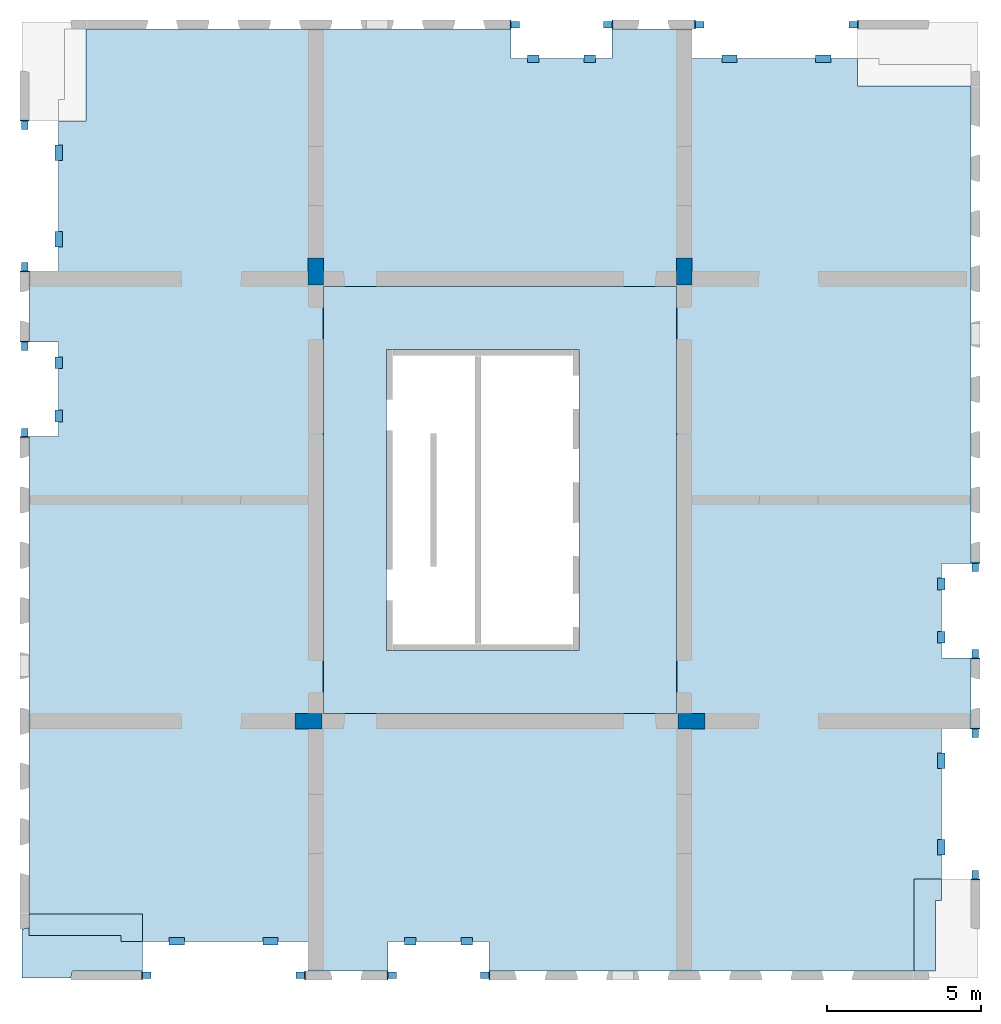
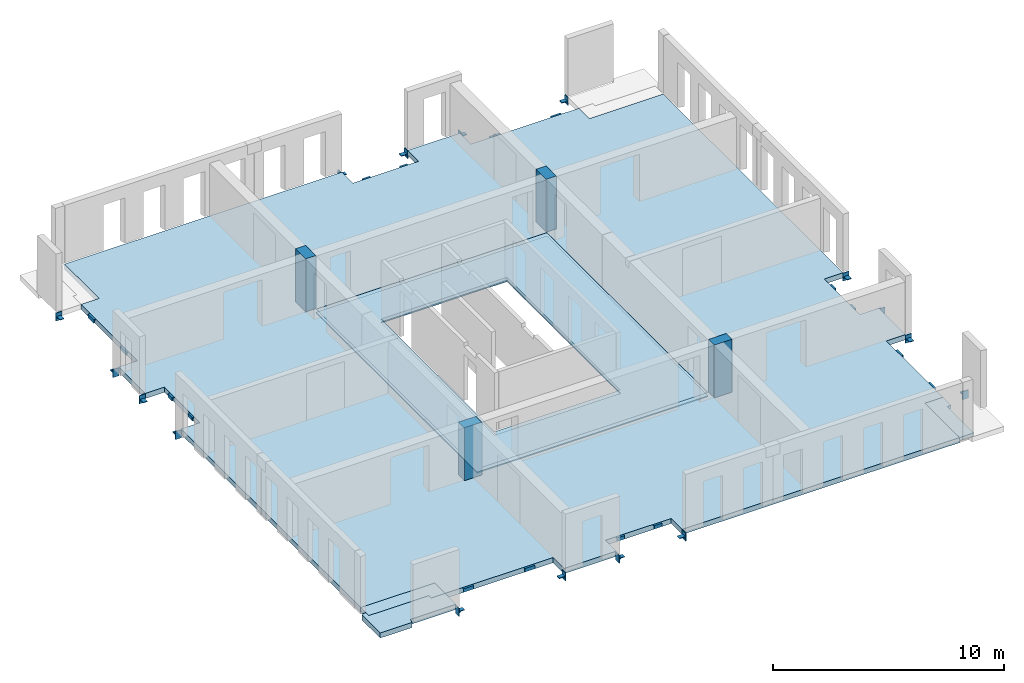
# One storey, part 1 of 4: 32 beams, 6 slabs, 4 columns, 3 openings.
"""IFC2X3 building model written with IfcOpenShell, lengths in millimetres."""

import ifcopenshell
import ifcopenshell.guid

model = None  # the IFC model being written
_history = None  # IfcOwnerHistory: only IFC2X3 demands one
_inside = {}  # id of a spatial element -> (the spatial element, [elements in it])
_under = {}  # id of a project, library or spatial element -> (it, [spatial elements below it])
_declared = {}  # id of a project -> (the project, [libraries it declares])
_typed = {}  # id of a type object -> (the type object, [elements of that type])
_made_of = {}  # id of a material, layer set ... -> (it, [elements and type objects made of it])


def new_model(schema):
    """Start an empty IFC model of exactly this schema.

    Asked for "IFC4X3", IfcOpenShell would pick the latest addendum, in which some entities
    have other attributes; the version numbers below select the first issue.
    IFC2X3 requires an IfcOwnerHistory on every rooted entity: one is made here for all.
    """
    global model, _history
    if schema == "IFC4X3":
        model = ifcopenshell.file(schema_version=(4, 3, 0, 0))
    else:
        model = ifcopenshell.file(schema=schema)
    _inside.clear()
    _under.clear()
    _declared.clear()
    _typed.clear()
    _made_of.clear()
    _history = None
    if model.schema == "IFC2X3":
        org = make("IfcOrganization", Name="unknown")
        user = make(
            "IfcPersonAndOrganization",
            ThePerson=make("IfcPerson", FamilyName="unknown"),
            TheOrganization=org,
        )
        app = make(
            "IfcApplication",
            ApplicationDeveloper=org,
            Version="unknown",
            ApplicationFullName="unknown",
            ApplicationIdentifier="unknown",
        )
        _history = make(
            "IfcOwnerHistory",
            OwningUser=user,
            OwningApplication=app,
            ChangeAction="ADDED",
            CreationDate=0,
        )
    return model


def make(cls, **values):
    """One entity of the class cls with the attributes given. An attribute that is None is left unset."""
    return model.create_entity(
        cls, **{name: value for name, value in values.items() if value is not None}
    )


def entity(cls, *values):
    """Any entity or typed value of the class cls, its attributes in the order of the schema. None: left unset."""
    e = model.create_entity(cls)
    for i, value in enumerate(values):
        if value is not None:
            e[i] = value
    return e


def rooted(cls, **values):
    """An entity with a GlobalId (a new one), such as an element, a storey or a relation."""
    return make(cls, GlobalId=ifcopenshell.guid.new(), OwnerHistory=_history, **values)


def si_unit(unit_type, name, prefix=None):
    """IfcSIUnit, for example si_unit("LENGTHUNIT", "METRE", prefix="MILLI")."""
    return make("IfcSIUnit", UnitType=unit_type, Prefix=prefix, Name=name)


def converted_unit(unit_type, name, factor, base, dimensions=None, offset=None):
    """IfcConversionBasedUnit, such as the inch: factor (a typed value) times the base unit."""
    return make(
        "IfcConversionBasedUnit"
        if offset is None
        else "IfcConversionBasedUnitWithOffset",
        ConversionOffset=offset,
        Dimensions=None
        if dimensions is None
        else entity("IfcDimensionalExponents", *dimensions),
        UnitType=unit_type,
        Name=name,
        ConversionFactor=make(
            "IfcMeasureWithUnit", ValueComponent=factor, UnitComponent=base
        ),
    )


def derived_unit(unit_type, elements):
    """IfcDerivedUnit: a product of units, each with its exponent."""
    return make(
        "IfcDerivedUnit",
        Elements=[
            make("IfcDerivedUnitElement", Unit=unit, Exponent=power)
            for unit, power in elements
        ],
        UnitType=unit_type,
    )


def assignment(units):
    """IfcUnitAssignment: the units of a project."""
    return None if units is None else make("IfcUnitAssignment", Units=units)


def point(xyz):
    """IfcCartesianPoint."""
    return None if xyz is None else make("IfcCartesianPoint", Coordinates=xyz)


def direction(xyz):
    """IfcDirection."""
    return None if xyz is None else make("IfcDirection", DirectionRatios=xyz)


def frame(location, z_axis=None, x_axis=None):
    """IfcAxis2Placement3D, a coordinate frame: its origin and axes. An axis left out is left unset."""
    return make(
        "IfcAxis2Placement3D",
        Location=point(location),
        Axis=direction(z_axis),
        RefDirection=direction(x_axis),
    )


def frame_2d(location, x_axis=None):
    """IfcAxis2Placement2D, a coordinate frame in the plane: its origin and x axis."""
    return make(
        "IfcAxis2Placement2D", Location=point(location), RefDirection=direction(x_axis)
    )


def origin():
    """The frame at (0, 0, 0) with its axes left unset."""
    return frame((0.0, 0.0, 0.0))


def origin_2d_with_axis():
    """The frame at (0, 0) in the plane with the x axis (1, 0) written out."""
    return frame_2d((0.0, 0.0), x_axis=(1.0, 0.0))


def place(relative_to, where):
    """IfcLocalPlacement: puts the frame where relative to a parent placement (None: the world)."""
    return make(
        "IfcLocalPlacement", PlacementRelTo=relative_to, RelativePlacement=where
    )


def context(
    kind, dimensions, precision=None, world=None, true_north=None, identifier=None
):
    """IfcGeometricRepresentationContext, for example the 3D "Model" context."""
    return make(
        "IfcGeometricRepresentationContext",
        ContextIdentifier=identifier,
        ContextType=kind,
        CoordinateSpaceDimension=dimensions,
        Precision=precision,
        WorldCoordinateSystem=world,
        TrueNorth=true_north,
    )


def subcontext(parent, identifier, kind, view, scale=None):
    """IfcGeometricRepresentationSubContext, for example "Body" below "Model"."""
    return make(
        "IfcGeometricRepresentationSubContext",
        ContextIdentifier=identifier,
        ContextType=kind,
        ParentContext=parent,
        TargetScale=scale,
        TargetView=view,
    )


def project(units=None, contexts=None):
    """IfcProject with its units and contexts."""
    return rooted(
        "IfcProject",
        Name="project",
        RepresentationContexts=contexts,
        UnitsInContext=assignment(units),
    )


def spatial(cls, under=None, at=None, **own):
    """A site, building, storey or space (cls), placed at a placement, below another one or the project."""
    s = rooted(cls, ObjectPlacement=at, **own)
    if under is not None:
        _under.setdefault(under.id(), (under, []))[1].append(s)
    return s


def polyline(points):
    """IfcPolyline through the points."""
    return make("IfcPolyline", Points=[point(p) for p in points])


def profile(cls, at=None, kind="AREA", **sizes):
    """A parametric profile (cls). Its sizes go by their IFC names, for example OverallWidth=200.0."""
    return make(cls, ProfileType=kind, Position=at, **sizes)


def rectangle(**sizes):
    """IfcRectangleProfileDef."""
    return profile("IfcRectangleProfileDef", **sizes)


def outline(outer, holes=None, kind="AREA"):
    """IfcArbitraryClosedProfileDef: a profile drawn as a closed curve; with holes, ...WithVoids."""
    if holes is None:
        return make("IfcArbitraryClosedProfileDef", ProfileType=kind, OuterCurve=outer)
    return make(
        "IfcArbitraryProfileDefWithVoids",
        ProfileType=kind,
        OuterCurve=outer,
        InnerCurves=holes,
    )


def extrude(swept, where, along, depth):
    """IfcExtrudedAreaSolid: the profile swept, set in the frame where, extruded along a direction by depth."""
    return make(
        "IfcExtrudedAreaSolid",
        SweptArea=swept,
        Position=where,
        ExtrudedDirection=direction(along),
        Depth=depth,
    )


def shape(context_of_items, identifier, shape_type, items):
    """IfcShapeRepresentation: the items that make up one representation, for example the "Body"."""
    return make(
        "IfcShapeRepresentation",
        ContextOfItems=context_of_items,
        RepresentationIdentifier=identifier,
        RepresentationType=shape_type,
        Items=items,
    )


def source(mapping_origin, context_of_items, identifier, shape_type, items):
    """IfcRepresentationMap: a shape defined once, which mapped items show again and again."""
    return make(
        "IfcRepresentationMap",
        MappingOrigin=mapping_origin,
        MappedRepresentation=shape(context_of_items, identifier, shape_type, items),
    )


def transform(
    local_origin,
    x_axis=None,
    y_axis=None,
    z_axis=None,
    scale=None,
    scale2=None,
    scale3=None,
    uniform=True,
):
    """IfcCartesianTransformationOperator3D, or its non-uniform kind. x_axis, y_axis, z_axis: its Axis1, 2, 3."""
    if uniform:
        return make(
            "IfcCartesianTransformationOperator3D",
            Axis1=direction(x_axis),
            Axis2=direction(y_axis),
            LocalOrigin=point(local_origin),
            Scale=scale,
            Axis3=direction(z_axis),
        )
    return make(
        "IfcCartesianTransformationOperator3DnonUniform",
        Axis1=direction(x_axis),
        Axis2=direction(y_axis),
        LocalOrigin=point(local_origin),
        Scale=scale,
        Axis3=direction(z_axis),
        Scale2=scale2,
        Scale3=scale3,
    )


def mapped(mapping_source, mapping_target):
    """IfcMappedItem: shows the shape of a source again, moved by a transform."""
    return make(
        "IfcMappedItem", MappingSource=mapping_source, MappingTarget=mapping_target
    )


def material(Name=None, Category=None):
    """IfcMaterial."""
    return make("IfcMaterial", Name=Name, Category=Category)


def layer(
    of_material, thickness, ventilated=None, Name=None, Category=None, Priority=None
):
    """IfcMaterialLayer: one layer of a wall or slab, of a material (None: an air gap)."""
    return make(
        "IfcMaterialLayer",
        Material=of_material,
        LayerThickness=thickness,
        IsVentilated=ventilated,
        Name=Name,
        Category=Category,
        Priority=Priority,
    )


def layer_set(layers, Name=None):
    """IfcMaterialLayerSet."""
    return make("IfcMaterialLayerSet", MaterialLayers=layers, LayerSetName=Name)


def layer_usage(for_layer_set, set_direction, sense, offset, extent=None):
    """IfcMaterialLayerSetUsage: how a layer set lies in its element."""
    return make(
        "IfcMaterialLayerSetUsage",
        ForLayerSet=for_layer_set,
        LayerSetDirection=set_direction,
        DirectionSense=sense,
        OffsetFromReferenceLine=offset,
        ReferenceExtent=extent,
    )


def made_of(thing, what):
    """Note that an element or type object is made of a material, layer set ...; save() writes the relation."""
    if what is not None:
        _made_of.setdefault(what.id(), (what, []))[1].append(thing)
    return thing


def type_object(cls, material=None, **own):
    """A type object (cls), such as IfcWallType, which elements share."""
    return made_of(rooted(cls, **own), material)


def type_shapes(of_type, sources):
    """Give a type object the sources (RepresentationMaps) that its elements show as mapped items."""
    of_type.RepresentationMaps = sources


def element(
    cls,
    number,
    at=None,
    inside=None,
    cuts=None,
    type_object=None,
    material=None,
    context=None,
    identifier="Body",
    shape_type=None,
    held_by="IfcProductDefinitionShape",
    body=None,
    shapes=None,
    **own,
):
    """One element of the class cls, such as IfcWall. Its Tag is "e" and its number.

    at: its placement. inside: the storey or other place that contains it. cuts: it is an
    opening in that element (IfcRelVoidsElement). A single representation is given by context,
    identifier, shape_type and body (its items); several are given by shapes. held_by: the class
    of the entity that holds the representations. save() writes the other relations.
    """
    e = rooted(cls, Tag="e%d" % number, ObjectPlacement=at, **own)
    if body is not None:
        shapes = [shape(context, identifier, shape_type, body)]
    if shapes is not None:
        e.Representation = make(held_by, Representations=shapes)
    if inside is not None:
        _inside.setdefault(inside.id(), (inside, []))[1].append(e)
    if cuts is not None:
        rooted(
            "IfcRelVoidsElement", RelatingBuildingElement=cuts, RelatedOpeningElement=e
        )
    if type_object is not None:
        _typed.setdefault(type_object.id(), (type_object, []))[1].append(e)
    return made_of(e, material)


def aggregate(whole, parts):
    """IfcRelAggregates: a whole, such as a stair, and the parts it consists of."""
    return rooted("IfcRelAggregates", RelatingObject=whole, RelatedObjects=parts)


def save(model, path):
    """Write the relations noted so far, then the file.

    IfcRelAggregates (storeys below a building ...), IfcRelContainedInSpatialStructure (elements
    in a storey), IfcRelDefinesByType, IfcRelAssociatesMaterial and IfcRelDeclares: one each for
    every whole, place, type object, material and project.
    """
    for whole, parts in _under.values():
        aggregate(whole, parts)
    for where, things in _inside.values():
        rooted(
            "IfcRelContainedInSpatialStructure",
            RelatedElements=things,
            RelatingStructure=where,
        )
    for kind, things in _typed.values():
        rooted("IfcRelDefinesByType", RelatedObjects=things, RelatingType=kind)
    for what, things in _made_of.values():
        rooted("IfcRelAssociatesMaterial", RelatedObjects=things, RelatingMaterial=what)
    for by, libraries in _declared.values():
        rooted("IfcRelDeclares", RelatingContext=by, RelatedDefinitions=libraries)
    model.write(path)


model = new_model("IFC2X3")

# Units and contexts
model_context = context("Model", 3, precision=0.01, world=origin(), true_north=direction((6.12303176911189e-17, 1.0)))
body_context = subcontext(model_context, "Body", "Model", "MODEL_VIEW")
ifc_project = project(units=[si_unit("LENGTHUNIT", "METRE", prefix="MILLI"), si_unit("AREAUNIT", "SQUARE_METRE"), si_unit("VOLUMEUNIT", "CUBIC_METRE"), converted_unit("PLANEANGLEUNIT", "DEGREE", entity("IfcRatioMeasure", 0.0174532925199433), si_unit("PLANEANGLEUNIT", "RADIAN"), dimensions=[0, 0, 0, 0, 0, 0, 0]), si_unit("MASSUNIT", "GRAM", prefix="KILO"), derived_unit("MASSDENSITYUNIT", [(si_unit("MASSUNIT", "GRAM", prefix="KILO"), 1), (si_unit("LENGTHUNIT", "METRE"), -3)]), si_unit("TIMEUNIT", "SECOND"), si_unit("FREQUENCYUNIT", "HERTZ"), si_unit("THERMODYNAMICTEMPERATUREUNIT", "DEGREE_CELSIUS"), derived_unit("THERMALTRANSMITTANCEUNIT", [(si_unit("MASSUNIT", "GRAM", prefix="KILO"), 1), (si_unit("THERMODYNAMICTEMPERATUREUNIT", "KELVIN"), -1), (si_unit("TIMEUNIT", "SECOND"), -3)]), derived_unit("VOLUMETRICFLOWRATEUNIT", [(si_unit("LENGTHUNIT", "METRE"), 3), (si_unit("TIMEUNIT", "SECOND"), -1)]), si_unit("ELECTRICCURRENTUNIT", "AMPERE"), si_unit("ELECTRICVOLTAGEUNIT", "VOLT"), si_unit("POWERUNIT", "WATT"), si_unit("FORCEUNIT", "NEWTON", prefix="KILO"), si_unit("ILLUMINANCEUNIT", "LUX"), si_unit("LUMINOUSFLUXUNIT", "LUMEN"), si_unit("LUMINOUSINTENSITYUNIT", "CANDELA"), derived_unit("USERDEFINED", [(si_unit("MASSUNIT", "GRAM", prefix="KILO"), -1), (si_unit("LENGTHUNIT", "METRE"), -2), (si_unit("TIMEUNIT", "SECOND"), 3), (si_unit("LUMINOUSFLUXUNIT", "LUMEN"), 1)]), derived_unit("LINEARVELOCITYUNIT", [(si_unit("LENGTHUNIT", "METRE"), 1), (si_unit("TIMEUNIT", "SECOND"), -1)]), si_unit("PRESSUREUNIT", "PASCAL"), derived_unit("USERDEFINED", [(si_unit("LENGTHUNIT", "METRE"), -2), (si_unit("MASSUNIT", "GRAM", prefix="KILO"), 1), (si_unit("TIMEUNIT", "SECOND"), -2)])], contexts=[model_context])

# Site, building, storey
site_placement = place(None, origin())
site = spatial("IfcSite", under=ifc_project, at=site_placement, Name="Default", CompositionType="ELEMENT")
building_placement = place(site_placement, origin())
building = spatial("IfcBuilding", under=site, at=building_placement, Name="niet gebruiken", CompositionType="ELEMENT")
storey_placement = place(building_placement, frame((0.0, 0.0, 39420.0)))
storey = spatial("IfcBuildingStorey", under=building, at=storey_placement, Name="12 twaalfde verdieping", CompositionType="ELEMENT", Elevation=39420.0)

# Columns
ifc_material_1 = material(Name="NLRS_f2_beton ihwg")
column_type_1 = type_object("IfcColumnType", Name="500x880", PredefinedType="COLUMN", material=ifc_material_1)
shared_shape_1 = source(origin(), body_context, "Body", "SweptSolid", [
    extrude(rectangle(XDim=879.999999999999, YDim=500.000000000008, at=origin_2d_with_axis()), frame((135750.003540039, 24940.0, 39330.0), z_axis=(0.0, 0.0, 1.0), x_axis=(0.0, -1.0, 0.0)), (0.0, 0.0, 1.0), 2790.00000000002),
])
type_shapes(column_type_1, [shared_shape_1])
column_1_placement = place(storey_placement, frame((0.0, 0.0, -39420.0)))
element("IfcColumn", 1, at=column_1_placement, inside=storey, type_object=column_type_1, material=ifc_material_1, Name="NLRS_28.11_SCO_TLB_beton kolom ihwg_gen:500x880", ObjectType="500x880", context=body_context, shape_type="MappedRepresentation", body=[
    mapped(shared_shape_1, transform((0.0, 0.0, 0.0), scale=1.0)),
])
column_type_2 = type_object("IfcColumnType", Name="500x880", PredefinedType="COLUMN", material=ifc_material_1)
shared_shape_2 = source(origin(), body_context, "Body", "SweptSolid", [
    extrude(rectangle(XDim=879.999999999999, YDim=500.000000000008, at=origin_2d_with_axis()), frame((147750.0, 24940.0, 39330.0), z_axis=(0.0, 0.0, 1.0), x_axis=(0.0, -1.0, 0.0)), (0.0, 0.0, 1.0), 2790.00000000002),
])
type_shapes(column_type_2, [shared_shape_2])
column_2_placement = place(storey_placement, frame((0.0, 0.0, -39420.0)))
element("IfcColumn", 2, at=column_2_placement, inside=storey, type_object=column_type_2, material=ifc_material_1, Name="NLRS_28.11_SCO_TLB_beton kolom ihwg_gen:500x880", ObjectType="500x880", context=body_context, shape_type="MappedRepresentation", body=[
    mapped(shared_shape_2, transform((0.0, 0.0, 0.0), scale=1.0)),
])
column_type_3 = type_object("IfcColumnType", Name="500x880", PredefinedType="COLUMN", material=ifc_material_1)
shared_shape_3 = source(origin(), body_context, "Body", "SweptSolid", [
    extrude(rectangle(XDim=500.000000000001, YDim=880.000000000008, at=origin_2d_with_axis()), frame((135510.003540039, 10300.0115507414, 39330.0), z_axis=(0.0, 0.0, 1.0), x_axis=(0.0, -1.0, 0.0)), (0.0, 0.0, 1.0), 2790.00000000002),
])
type_shapes(column_type_3, [shared_shape_3])
column_3_placement = place(storey_placement, frame((0.0, 0.0, -39420.0)))
element("IfcColumn", 3, at=column_3_placement, inside=storey, type_object=column_type_3, material=ifc_material_1, Name="NLRS_28.11_SCO_TLB_beton kolom ihwg_gen:500x880", ObjectType="500x880", context=body_context, shape_type="MappedRepresentation", body=[
    mapped(shared_shape_3, transform((0.0, 0.0, 0.0), scale=1.0)),
])
column_type_4 = type_object("IfcColumnType", Name="500x880", PredefinedType="COLUMN", material=ifc_material_1)
shared_shape_4 = source(origin(), body_context, "Body", "SweptSolid", [
    extrude(rectangle(XDim=500.000000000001, YDim=880.000000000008, at=origin_2d_with_axis()), frame((147990.0, 10300.0, 39330.0), z_axis=(0.0, 0.0, 1.0), x_axis=(0.0, -1.0, 0.0)), (0.0, 0.0, 1.0), 2790.00000000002),
])
type_shapes(column_type_4, [shared_shape_4])
column_4_placement = place(storey_placement, frame((0.0, 0.0, -39420.0)))
element("IfcColumn", 4, at=column_4_placement, inside=storey, type_object=column_type_4, material=ifc_material_1, Name="NLRS_28.11_SCO_TLB_beton kolom ihwg_gen:500x880", ObjectType="500x880", context=body_context, shape_type="MappedRepresentation", body=[
    mapped(shared_shape_4, transform((0.0, 0.0, 0.0), scale=1.0)),
])

# Beams
ifc_material_2 = material(Name="NLRS_h2_staal")
beam_type_1 = type_object("IfcBeamType", Name="NLRS_28.11_SF_WPB_stalen schoen 4_gen", PredefinedType="BEAM", material=ifc_material_2)
shared_shape_5 = source(origin(), body_context, "Body", "SweptSolid", [
    extrude(outline(polyline([(-69.4999999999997, -23.0), (8.49999999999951, -23.0), (30.5, -1.0), (30.5000000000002, 47.0), (-69.4999999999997, -23.0)])), frame((-105.0, -109.499999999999, -58.0), z_axis=(1.0, 0.0, 0.0), x_axis=(0.0, -1.0, 0.0)), (0.0, 0.0, 1.0), 35.0),
    extrude(outline(polyline([(-69.4999999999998, -23.0), (8.49999999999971, -23.0), (30.5, -1.0), (30.5000000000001, 47.0), (-69.4999999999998, -23.0)])), frame((70.0, -109.499999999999, -58.0), z_axis=(1.0, 0.0, 0.0), x_axis=(0.0, -1.0, 0.0)), (0.0, 0.0, 1.0), 35.0),
    extrude(rectangle(XDim=300.0, YDim=34.9999999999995, at=origin_2d_with_axis()), frame((0.0, -157.5, -230.0), z_axis=(0.0, 0.0, 1.0), x_axis=(-1.0, 0.0, 0.0)), (0.0, 0.0, 1.0), 420.0),
    extrude(rectangle(XDim=210.000000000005, YDim=274.999999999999, at=origin_2d_with_axis()), frame((0.0, -2.4999999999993, -35.0), z_axis=(0.0, 0.0, 1.0), x_axis=(-1.0, 0.0, 0.0)), (0.0, 0.0, 1.0), 35.0),
])
type_shapes(beam_type_1, [shared_shape_5])
beam_1_placement = place(storey_placement, frame((157230.0, 12500.0, -310.0)))
element("IfcBeam", 5, at=beam_1_placement, inside=storey, type_object=beam_type_1, material=ifc_material_2, Name="NLRS_28.11_SF_WPB_stalen schoen 4_gen:NLRS_28.11_SF_WPB_stalen schoen 4_gen", ObjectType="NLRS_28.11_SF_WPB_stalen schoen 4_gen", context=body_context, shape_type="MappedRepresentation", body=[
    mapped(shared_shape_5, transform((0.0, 0.0, 0.0), scale=1.0)),
])
for number, where, z_axis, x_axis, name in (
    (6, (126270.0, 22500.0, -310.0), (0.0, 0.0, 1.0), (-1.0, 0.0, 0.0), "NLRS_28.11_SF_WPB_stalen schoen 4_gen:NLRS_28.11_SF_WPB_stalen schoen 4_gen"),
    (7, (157230.0, 15300.0, -310.0), (0.0, 0.0, 1.0), (-1.0, 0.0, 0.0), "NLRS_28.11_SF_WPB_stalen schoen 4_gen:NLRS_28.11_SF_WPB_stalen schoen 4_gen"),
):
    element("IfcBeam", number, at=place(storey_placement, frame(where, z_axis=z_axis, x_axis=x_axis)), inside=storey, type_object=beam_type_1, material=ifc_material_2, Name=name, ObjectType="NLRS_28.11_SF_WPB_stalen schoen 4_gen", context=body_context, shape_type="MappedRepresentation", body=[
        mapped(shared_shape_5, transform((0.0, 0.0, 0.0), scale=1.0)),
    ])
beam_2_placement = place(storey_placement, frame((126270.0, 19700.0, -310.0)))
element("IfcBeam", 8, at=beam_2_placement, inside=storey, type_object=beam_type_1, material=ifc_material_2, Name="NLRS_28.11_SF_WPB_stalen schoen 4_gen:NLRS_28.11_SF_WPB_stalen schoen 4_gen", ObjectType="NLRS_28.11_SF_WPB_stalen schoen 4_gen", context=body_context, shape_type="MappedRepresentation", body=[
    mapped(shared_shape_5, transform((0.0, 0.0, 0.0), scale=1.0)),
])
for number, where, z_axis, x_axis, name in (
    (9, (138250.0, 2020.0, -310.0), (0.0, 0.0, 1.0), (0.0, -1.0, 0.0), "NLRS_28.11_SF_WPB_stalen schoen 4_gen:NLRS_28.11_SF_WPB_stalen schoen 4_gen"),
    (10, (141250.0, 2020.0, -310.0), (0.0, 0.0, 1.0), (0.0, 1.0, 0.0), "NLRS_28.11_SF_WPB_stalen schoen 4_gen:NLRS_28.11_SF_WPB_stalen schoen 4_gen"),
    (11, (145250.0, 32980.0, -310.0), (0.0, 0.0, 1.0), (0.0, 1.0, 0.0), "NLRS_28.11_SF_WPB_stalen schoen 4_gen:NLRS_28.11_SF_WPB_stalen schoen 4_gen"),
    (12, (142250.0, 32980.0, -310.0), (0.0, 0.0, 1.0), (0.0, -1.0, 0.0), "NLRS_28.11_SF_WPB_stalen schoen 4_gen:NLRS_28.11_SF_WPB_stalen schoen 4_gen"),
):
    element("IfcBeam", number, at=place(storey_placement, frame(where, z_axis=z_axis, x_axis=x_axis)), inside=storey, type_object=beam_type_1, material=ifc_material_2, Name=name, ObjectType="NLRS_28.11_SF_WPB_stalen schoen 4_gen", context=body_context, shape_type="MappedRepresentation", body=[
        mapped(shared_shape_5, transform((0.0, 0.0, 0.0), scale=1.0)),
    ])
beam_type_2 = type_object("IfcBeamType", Name="NLRS_28.11_SF_WPB_stalen schoen 3_gen", PredefinedType="BEAM", material=ifc_material_2)
shared_shape_6 = source(origin(), body_context, "Body", "SweptSolid", [
    extrude(outline(polyline([(-69.4999999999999, -23.0), (8.49999999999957, -23.0), (30.5000000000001, -1.0), (30.5000000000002, 47.0), (-69.4999999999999, -23.0)])), frame((-105.0, -109.499999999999, -63.0), z_axis=(1.0, 0.0, 0.0), x_axis=(0.0, -1.0, 0.0)), (0.0, 0.0, 1.0), 40.0),
    extrude(outline(polyline([(-69.4999999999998, -23.0), (8.49999999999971, -23.0), (30.5, -1.0), (30.5000000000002, 47.0), (-69.4999999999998, -23.0)])), frame((65.0, -109.499999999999, -63.0), z_axis=(1.0, 0.0, 0.0), x_axis=(0.0, -1.0, 0.0)), (0.0, 0.0, 1.0), 40.0),
    extrude(rectangle(XDim=300.0, YDim=39.9999999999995, at=origin_2d_with_axis()), frame((0.0, -160.0, -230.0), z_axis=(0.0, 0.0, 1.0), x_axis=(-1.0, 0.0, 0.0)), (0.0, 0.0, 1.0), 420.0),
    extrude(rectangle(XDim=210.000000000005, YDim=274.999999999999, at=origin_2d_with_axis()), frame((0.0, -2.49999999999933, -40.0), z_axis=(0.0, 0.0, 1.0), x_axis=(-1.0, 0.0, 0.0)), (0.0, 0.0, 1.0), 39.9999999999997),
])
type_shapes(beam_type_2, [shared_shape_6])
beam_3_placement = place(storey_placement, frame((157230.0, 9900.0, -310.0), z_axis=(0.0, 0.0, 1.0), x_axis=(-1.0, 0.0, 0.0)))
element("IfcBeam", 13, at=beam_3_placement, inside=storey, type_object=beam_type_2, material=ifc_material_2, Name="NLRS_28.11_SF_WPB_stalen schoen 3_gen:NLRS_28.11_SF_WPB_stalen schoen 3_gen", ObjectType="NLRS_28.11_SF_WPB_stalen schoen 3_gen", context=body_context, shape_type="MappedRepresentation", body=[
    mapped(shared_shape_6, transform((0.0, 0.0, 0.0), scale=1.0)),
])
for number, where, name in (
    (14, (157230.0, 5300.0, -310.0), "NLRS_28.11_SF_WPB_stalen schoen 3_gen:NLRS_28.11_SF_WPB_stalen schoen 3_gen"),
    (15, (126270.0, 25100.0, -310.0), "NLRS_28.11_SF_WPB_stalen schoen 3_gen:NLRS_28.11_SF_WPB_stalen schoen 3_gen"),
):
    element("IfcBeam", number, at=place(storey_placement, frame(where)), inside=storey, type_object=beam_type_2, material=ifc_material_2, Name=name, ObjectType="NLRS_28.11_SF_WPB_stalen schoen 3_gen", context=body_context, shape_type="MappedRepresentation", body=[
        mapped(shared_shape_6, transform((0.0, 0.0, 0.0), scale=1.0)),
    ])
for number, where, z_axis, x_axis, name in (
    (16, (126270.0, 29700.0, -310.0), (0.0, 0.0, 1.0), (-1.0, 0.0, 0.0), "NLRS_28.11_SF_WPB_stalen schoen 3_gen:NLRS_28.11_SF_WPB_stalen schoen 3_gen"),
    (17, (135250.0, 2020.0, -310.0), (0.0, 0.0, 1.0), (0.0, 1.0, 0.0), "NLRS_28.11_SF_WPB_stalen schoen 3_gen:NLRS_28.11_SF_WPB_stalen schoen 3_gen"),
    (18, (130250.0, 2020.0, -310.0), (0.0, 0.0, 1.0), (0.0, -1.0, 0.0), "NLRS_28.11_SF_WPB_stalen schoen 3_gen:NLRS_28.11_SF_WPB_stalen schoen 3_gen"),
    (19, (148250.0, 32980.0, -310.0), (0.0, 0.0, 1.0), (0.0, -1.0, 0.0), "NLRS_28.11_SF_WPB_stalen schoen 3_gen:NLRS_28.11_SF_WPB_stalen schoen 3_gen"),
    (20, (153250.0, 32980.0, -310.0), (0.0, 0.0, 1.0), (0.0, 1.0, 0.0), "NLRS_28.11_SF_WPB_stalen schoen 3_gen:NLRS_28.11_SF_WPB_stalen schoen 3_gen"),
):
    element("IfcBeam", number, at=place(storey_placement, frame(where, z_axis=z_axis, x_axis=x_axis)), inside=storey, type_object=beam_type_2, material=ifc_material_2, Name=name, ObjectType="NLRS_28.11_SF_WPB_stalen schoen 3_gen", context=body_context, shape_type="MappedRepresentation", body=[
        mapped(shared_shape_6, transform((0.0, 0.0, 0.0), scale=1.0)),
    ])
beam_type_3 = type_object("IfcBeamType", Name="NLRS_28.11_SF_WPB_stalen handje 7 lang 375_gen:NLRS_28.11_SF_WPB_stalen handje 7_gen", PredefinedType="BEAM")
beam_4_placement = place(storey_placement, frame((156235.125015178, 9255.24886461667, -93.0), z_axis=(0.0, 0.0, 1.0), x_axis=(0.0, -1.0, 0.0)))
element("IfcBeam", 21, at=beam_4_placement, inside=storey, type_object=beam_type_3, material=ifc_material_2, Name="NLRS_28.11_SF_WPB_stalen handje 7 lang 375_gen:NLRS_28.11_SF_WPB_stalen handje 7_gen", ObjectType="NLRS_28.11_SF_WPB_stalen handje 7 lang 375_gen:NLRS_28.11_SF_WPB_stalen handje 7_gen", context=body_context, shape_type="SweptSolid", body=[
    extrude(outline(polyline([(-70.6666666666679, -153.33333333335), (-40.6666666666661, -153.33333333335), (-40.6666666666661, 61.6666666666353), (111.333333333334, 61.6666666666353), (111.333333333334, 91.6666666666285), (-70.6666666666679, 91.6666666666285), (-70.6666666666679, -153.33333333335)])), frame((0.0, -91.6666666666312, -70.6666666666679), z_axis=(1.0, 0.0, 0.0), x_axis=(0.0, 0.0, -1.0)), (0.0, 0.0, 1.0), 500.000000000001),
])
beam_5_placement = place(storey_placement, frame((156235.125015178, 6445.24582437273, -93.0), z_axis=(0.0, 0.0, 1.0), x_axis=(0.0, -1.0, 0.0)))
element("IfcBeam", 22, at=beam_5_placement, inside=storey, type_object=beam_type_3, material=ifc_material_2, Name="NLRS_28.11_SF_WPB_stalen handje 7 lang 375_gen:NLRS_28.11_SF_WPB_stalen handje 7_gen", ObjectType="NLRS_28.11_SF_WPB_stalen handje 7 lang 375_gen:NLRS_28.11_SF_WPB_stalen handje 7_gen", context=body_context, shape_type="SweptSolid", body=[
    extrude(outline(polyline([(-70.6666666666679, -153.33333333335), (-40.6666666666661, -153.33333333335), (-40.6666666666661, 61.6666666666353), (111.333333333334, 61.6666666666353), (111.333333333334, 91.6666666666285), (-70.6666666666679, 91.6666666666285), (-70.6666666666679, -153.33333333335)])), frame((0.0, -91.6666666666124, -70.6666666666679), z_axis=(1.0, 0.0, 0.0), x_axis=(0.0, 0.0, -1.0)), (0.0, 0.0, 1.0), 500.000000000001),
])
beam_6_placement = place(storey_placement, frame((127264.874984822, 25744.7511353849, -93.0), z_axis=(0.0, 0.0, 1.0), x_axis=(0.0, 1.0, 0.0)))
element("IfcBeam", 23, at=beam_6_placement, inside=storey, type_object=beam_type_3, material=ifc_material_2, Name="NLRS_28.11_SF_WPB_stalen handje 7 lang 375_gen:NLRS_28.11_SF_WPB_stalen handje 7_gen", ObjectType="NLRS_28.11_SF_WPB_stalen handje 7 lang 375_gen:NLRS_28.11_SF_WPB_stalen handje 7_gen", context=body_context, shape_type="SweptSolid", body=[
    extrude(outline(polyline([(-70.6666666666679, -153.333333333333), (-40.6666666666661, -153.333333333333), (-40.6666666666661, 61.6666666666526), (111.333333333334, 61.6666666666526), (111.333333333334, 91.6666666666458), (-70.6666666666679, 91.6666666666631), (-70.6666666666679, -153.333333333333)])), frame((0.0, -91.6666666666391, -70.6666666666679), z_axis=(1.0, 0.0, 0.0), x_axis=(0.0, 0.0, -1.0)), (0.0, 0.0, 1.0), 500.0),
])
beam_7_placement = place(storey_placement, frame((127264.874984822, 28554.7541756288, -93.0), z_axis=(0.0, 0.0, 1.0), x_axis=(0.0, 1.0, 0.0)))
element("IfcBeam", 24, at=beam_7_placement, inside=storey, type_object=beam_type_3, material=ifc_material_2, Name="NLRS_28.11_SF_WPB_stalen handje 7 lang 375_gen:NLRS_28.11_SF_WPB_stalen handje 7_gen", ObjectType="NLRS_28.11_SF_WPB_stalen handje 7 lang 375_gen:NLRS_28.11_SF_WPB_stalen handje 7_gen", context=body_context, shape_type="SweptSolid", body=[
    extrude(outline(polyline([(-70.6666666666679, -153.33333333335), (-40.6666666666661, -153.33333333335), (-40.6666666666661, 61.6666666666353), (111.333333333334, 61.6666666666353), (111.333333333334, 91.6666666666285), (-70.6666666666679, 91.6666666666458), (-70.6666666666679, -153.33333333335)])), frame((0.0, -91.6666666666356, -70.6666666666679), z_axis=(1.0, 0.0, 0.0), x_axis=(0.0, 0.0, -1.0)), (0.0, 0.0, 1.0), 500.0),
])
for number, where, z_axis, x_axis, name in (
    (25, (140862.631597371, 3015.2361127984, -93.0), (0.0, 0.0, 1.0), (-1.0, 0.0, 0.0), "NLRS_28.11_SF_WPB_stalen handje 7 lang 375_gen:NLRS_28.11_SF_WPB_stalen handje 7_gen"),
    (26, (139012.628555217, 3015.23611279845, -93.0), (0.0, 0.0, 1.0), (-1.0, 0.0, 0.0), "NLRS_28.11_SF_WPB_stalen handje 7 lang 375_gen:NLRS_28.11_SF_WPB_stalen handje 7_gen"),
):
    element("IfcBeam", number, at=place(storey_placement, frame(where, z_axis=z_axis, x_axis=x_axis)), inside=storey, type_object=beam_type_3, material=ifc_material_2, Name=name, ObjectType="NLRS_28.11_SF_WPB_stalen handje 7 lang 375_gen:NLRS_28.11_SF_WPB_stalen handje 7_gen", context=body_context, shape_type="SweptSolid", body=[
        extrude(outline(polyline([(-70.6666666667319, -153.333333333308), (-40.6666666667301, -153.333333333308), (-40.6666666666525, 61.6666666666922), (111.333333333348, 61.6666666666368), (111.333333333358, 91.6666666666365), (-70.6666666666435, 91.6666666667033), (-70.6666666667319, -153.333333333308)])), frame((0.0, -91.6666666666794, -70.6666666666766), z_axis=(1.0, 0.0, 0.0), x_axis=(0.0, 0.0, -1.0)), (0.0, 0.0, 1.0), 375.000000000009),
    ])
for number, where, z_axis, x_axis, name in (
    (27, (134525.131597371, 3015.23611279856, -93.0), (0.0, 0.0, 1.0), (-1.0, 0.0, 0.0), "NLRS_28.11_SF_WPB_stalen handje 7 lang 375_gen:NLRS_28.11_SF_WPB_stalen handje 7_gen"),
    (28, (131475.128555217, 3015.23611279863, -93.0), (0.0, 0.0, 1.0), (-1.0, 0.0, 0.0), "NLRS_28.11_SF_WPB_stalen handje 7 lang 375_gen:NLRS_28.11_SF_WPB_stalen handje 7_gen"),
):
    element("IfcBeam", number, at=place(storey_placement, frame(where, z_axis=z_axis, x_axis=x_axis)), inside=storey, type_object=beam_type_3, material=ifc_material_2, Name=name, ObjectType="NLRS_28.11_SF_WPB_stalen handje 7 lang 375_gen:NLRS_28.11_SF_WPB_stalen handje 7_gen", context=body_context, shape_type="SweptSolid", body=[
        extrude(outline(polyline([(-70.6666666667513, -153.333333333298), (-40.6666666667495, -153.333333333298), (-40.6666666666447, 61.6666666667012), (111.333333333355, 61.6666666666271), (111.33333333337, 91.6666666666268), (-70.6666666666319, 91.666666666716), (-70.6666666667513, -153.333333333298)])), frame((0.0, -91.6666666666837, -70.6666666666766), z_axis=(1.0, 0.0, 0.0), x_axis=(0.0, 0.0, -1.0)), (0.0, 0.0, 1.0), 500.000000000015),
    ])
for number, where, name in (
    (29, (142637.368402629, 31984.7638872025, -93.0), "NLRS_28.11_SF_WPB_stalen handje 7 lang 375_gen:NLRS_28.11_SF_WPB_stalen handje 7_gen"),
    (30, (144487.371444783, 31984.7638872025, -93.0), "NLRS_28.11_SF_WPB_stalen handje 7 lang 375_gen:NLRS_28.11_SF_WPB_stalen handje 7_gen"),
):
    element("IfcBeam", number, at=place(storey_placement, frame(where)), inside=storey, type_object=beam_type_3, material=ifc_material_2, Name=name, ObjectType="NLRS_28.11_SF_WPB_stalen handje 7 lang 375_gen:NLRS_28.11_SF_WPB_stalen handje 7_gen", context=body_context, shape_type="SweptSolid", body=[
        extrude(outline(polyline([(-70.6666666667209, -153.333333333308), (-40.666666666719, -153.333333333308), (-40.6666666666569, 61.6666666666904), (111.333333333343, 61.6666666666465), (111.333333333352, 91.6666666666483), (-70.6666666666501, 91.6666666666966), (-70.6666666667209, -153.333333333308)])), frame((0.0, -91.6666666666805, -70.6666666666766), z_axis=(1.0, 0.0, 0.0), x_axis=(0.0, 0.0, -1.0)), (0.0, 0.0, 1.0), 375.000000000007),
    ])
beam_8_placement = place(storey_placement, frame((148974.868402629, 31984.7638872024, -93.0)))
element("IfcBeam", 31, at=beam_8_placement, inside=storey, type_object=beam_type_3, material=ifc_material_2, Name="NLRS_28.11_SF_WPB_stalen handje 7 lang 375_gen:NLRS_28.11_SF_WPB_stalen handje 7_gen", ObjectType="NLRS_28.11_SF_WPB_stalen handje 7 lang 375_gen:NLRS_28.11_SF_WPB_stalen handje 7_gen", context=body_context, shape_type="SweptSolid", body=[
    extrude(outline(polyline([(-70.666666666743, -153.333333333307), (-40.6666666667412, -153.333333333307), (-40.666666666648, 61.6666666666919), (111.333333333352, 61.6666666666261), (111.333333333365, 91.6666666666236), (-70.6666666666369, 91.6666666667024), (-70.666666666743, -153.333333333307)])), frame((0.0, -91.6666666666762, -70.6666666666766), z_axis=(1.0, 0.0, 0.0), x_axis=(0.0, 0.0, -1.0)), (0.0, 0.0, 1.0), 500.000000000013),
])
beam_9_placement = place(storey_placement, frame((152024.871444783, 31984.7638872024, -93.0)))
element("IfcBeam", 32, at=beam_9_placement, inside=storey, type_object=beam_type_3, material=ifc_material_2, Name="NLRS_28.11_SF_WPB_stalen handje 7 lang 375_gen:NLRS_28.11_SF_WPB_stalen handje 7_gen", ObjectType="NLRS_28.11_SF_WPB_stalen handje 7 lang 375_gen:NLRS_28.11_SF_WPB_stalen handje 7_gen", context=body_context, shape_type="SweptSolid", body=[
    extrude(outline(polyline([(-70.666666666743, -153.333333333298), (-40.6666666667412, -153.333333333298), (-40.666666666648, 61.6666666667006), (111.333333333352, 61.6666666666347), (111.333333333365, 91.6666666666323), (-70.6666666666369, 91.6666666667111), (-70.666666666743, -153.333333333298)])), frame((0.0, -91.6666666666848, -70.6666666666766), z_axis=(1.0, 0.0, 0.0), x_axis=(0.0, 0.0, -1.0)), (0.0, 0.0, 1.0), 500.000000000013),
])
beam_10_placement = place(storey_placement, frame((156235.0, 14952.5097115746, -93.0), z_axis=(0.0, 0.0, 1.0), x_axis=(0.0, -1.0, 0.0)))
element("IfcBeam", 33, at=beam_10_placement, inside=storey, type_object=beam_type_3, material=ifc_material_2, Name="NLRS_28.11_SF_WPB_stalen handje 7 lang 375_gen:NLRS_28.11_SF_WPB_stalen handje 7_gen", ObjectType="NLRS_28.11_SF_WPB_stalen handje 7 lang 375_gen:NLRS_28.11_SF_WPB_stalen handje 7_gen", context=body_context, shape_type="SweptSolid", body=[
    extrude(outline(polyline([(-70.6666666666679, -153.333333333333), (-40.6666666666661, -153.333333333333), (-40.6666666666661, 61.66666666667), (111.333333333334, 61.66666666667), (111.333333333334, 91.6666666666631), (-70.6666666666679, 91.6666666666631), (-70.6666666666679, -153.333333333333)])), frame((0.0, -91.6666666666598, -70.6666666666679), z_axis=(1.0, 0.0, 0.0), x_axis=(0.0, 0.0, -1.0)), (0.0, 0.0, 1.0), 375.000000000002),
])
beam_11_placement = place(storey_placement, frame((156235.0, 13222.5097115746, -93.0), z_axis=(0.0, 0.0, 1.0), x_axis=(0.0, -1.0, 0.0)))
element("IfcBeam", 34, at=beam_11_placement, inside=storey, type_object=beam_type_3, material=ifc_material_2, Name="NLRS_28.11_SF_WPB_stalen handje 7 lang 375_gen:NLRS_28.11_SF_WPB_stalen handje 7_gen", ObjectType="NLRS_28.11_SF_WPB_stalen handje 7 lang 375_gen:NLRS_28.11_SF_WPB_stalen handje 7_gen", context=body_context, shape_type="SweptSolid", body=[
    extrude(outline(polyline([(-70.6666666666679, -153.333333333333), (-40.6666666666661, -153.333333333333), (-40.6666666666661, 61.66666666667), (111.333333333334, 61.66666666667), (111.333333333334, 91.6666666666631), (-70.6666666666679, 91.6666666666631), (-70.6666666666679, -153.333333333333)])), frame((0.0, -91.6666666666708, -70.6666666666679), z_axis=(1.0, 0.0, 0.0), x_axis=(0.0, 0.0, -1.0)), (0.0, 0.0, 1.0), 375.000000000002),
])
beam_12_placement = place(storey_placement, frame((127265.0, 20047.4902884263, -93.0), z_axis=(0.0, 0.0, 1.0), x_axis=(0.0, 1.0, 0.0)))
element("IfcBeam", 35, at=beam_12_placement, inside=storey, type_object=beam_type_3, material=ifc_material_2, Name="NLRS_28.11_SF_WPB_stalen handje 7 lang 375_gen:NLRS_28.11_SF_WPB_stalen handje 7_gen", ObjectType="NLRS_28.11_SF_WPB_stalen handje 7 lang 375_gen:NLRS_28.11_SF_WPB_stalen handje 7_gen", context=body_context, shape_type="SweptSolid", body=[
    extrude(outline(polyline([(-70.6666666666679, -153.33333333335), (-40.6666666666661, -153.33333333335), (-40.6666666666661, 61.6666666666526), (111.333333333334, 61.6666666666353), (111.333333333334, 91.6666666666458), (-70.6666666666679, 91.6666666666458), (-70.6666666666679, -153.33333333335)])), frame((0.0, -91.6666666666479, -70.6666666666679), z_axis=(1.0, 0.0, 0.0), x_axis=(0.0, 0.0, -1.0)), (0.0, 0.0, 1.0), 375.000000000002),
])
beam_13_placement = place(storey_placement, frame((127265.0, 21777.4902884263, -93.0), z_axis=(0.0, 0.0, 1.0), x_axis=(0.0, 1.0, 0.0)))
element("IfcBeam", 36, at=beam_13_placement, inside=storey, type_object=beam_type_3, material=ifc_material_2, Name="NLRS_28.11_SF_WPB_stalen handje 7 lang 375_gen:NLRS_28.11_SF_WPB_stalen handje 7_gen", ObjectType="NLRS_28.11_SF_WPB_stalen handje 7 lang 375_gen:NLRS_28.11_SF_WPB_stalen handje 7_gen", context=body_context, shape_type="SweptSolid", body=[
    extrude(outline(polyline([(-70.6666666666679, -153.333333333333), (-40.6666666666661, -153.333333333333), (-40.6666666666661, 61.66666666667), (111.333333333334, 61.6666666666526), (111.333333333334, 91.6666666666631), (-70.6666666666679, 91.6666666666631), (-70.6666666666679, -153.333333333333)])), frame((0.0, -91.6666666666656, -70.6666666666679), z_axis=(1.0, 0.0, 0.0), x_axis=(0.0, 0.0, -1.0)), (0.0, 0.0, 1.0), 375.000000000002),
])

# Slabs
ifc_layer_1 = layer(ifc_material_1, 170.0)
ifc_layer_set_1 = layer_set([ifc_layer_1], Name="Floor:NLRS_23.21_FL_beton ihwg d=170_gen")
ifc_layer_usage_1 = layer_usage(ifc_layer_set_1, "AXIS3", "POSITIVE", 0.0)
slab_1_placement = place(storey_placement, origin())
element("IfcSlab", 37, at=slab_1_placement, inside=storey, material=ifc_layer_usage_1, Name="Floor:NLRS_23.21_FL_beton ihwg d=170_gen", ObjectType="Floor:NLRS_23.21_FL_beton ihwg d=170_gen", PredefinedType="FLOOR", context=body_context, shape_type="SweptSolid", body=[
    extrude(outline(polyline([(-1760.0, -533.33333333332), (1230.0, -533.33333333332), (1230.0, 366.666666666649), (530.0, 366.666666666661), (530.0, 166.666666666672), (-1760.0, 166.666666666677), (-1760.0, -533.33333333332)])), frame((155763.333333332, 3930.0, -90.0), z_axis=(0.0, 0.0, -1.0), x_axis=(0.0, 1.0, 0.0)), (0.0, 0.0, 1.0), 169.999999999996),
])
ifc_material_3 = material(Name="NLRS_f2_beton prefab")
ifc_layer_2 = layer(ifc_material_3, 270.0)
ifc_layer_set_2 = layer_set([ifc_layer_2], Name="Floor:NLRS_23.22_FL_beton prefab d=270 3D element_gen")
ifc_layer_usage_2 = layer_usage(ifc_layer_set_2, "AXIS3", "POSITIVE", 0.0)
slab_2_placement = place(storey_placement, origin())
element("IfcSlab", 38, at=slab_2_placement, inside=storey, material=ifc_layer_usage_2, Name="Floor:NLRS_23.22_FL_beton prefab d=270 3D element_gen", ObjectType="Floor:NLRS_23.22_FL_beton prefab d=270 3D element_gen", PredefinedType="LANDING", context=body_context, shape_type="SweptSolid", body=[
    extrude(outline(polyline([(-982.471394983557, -1442.47139498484), (607.67594043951, -1442.47139498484), (655.152429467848, -1209.47139498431), (1100.52860501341, -1209.47139498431), (1100.52860501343, 2480.5286050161), (-749.471394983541, 2480.5286050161), (-749.471394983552, 195.15242946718), (-982.47139498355, 147.675940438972), (-982.471394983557, -1442.47139498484)])), frame((127629.471394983, 2919.47139499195, -90.0), z_axis=(0.0, 0.0, -1.0), x_axis=(0.0, 1.0, 0.0)), (0.0, 0.0, 1.0), 269.999999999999),
])
ifc_layer_usage_3 = layer_usage(ifc_layer_set_1, "AXIS3", "POSITIVE", 0.0)
slab_3_placement = place(storey_placement, origin())
element("IfcSlab", 39, at=slab_3_placement, inside=storey, material=ifc_layer_usage_3, Name="Floor:NLRS_23.21_FL_beton ihwg d=170_gen", ObjectType="Floor:NLRS_23.21_FL_beton ihwg d=170_gen", PredefinedType="FLOOR", context=body_context, shape_type="SweptSolid", body=[
    extrude(outline(polyline([(-166.666666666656, -2226.66666666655), (533.333333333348, -2226.66666666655), (533.333333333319, 1463.33333333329), (-366.666666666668, 1463.33333333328), (-366.666666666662, 763.333333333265), (-166.666666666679, 763.333333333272), (-166.666666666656, -2226.66666666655)])), frame((128646.666666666, 3486.66666667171, -90.0), z_axis=(0.0, 0.0, -1.0), x_axis=(0.0, 1.0, 0.0)), (0.0, 0.0, 1.0), 169.999999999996),
])

# Slab, opening
ifc_layer_3 = layer(ifc_material_1, 230.0)
ifc_layer_set_3 = layer_set([ifc_layer_3], Name="Floor:NLRS_23.21_FL_vloer=230_gen")
ifc_layer_usage_4 = layer_usage(ifc_layer_set_3, "AXIS3", "POSITIVE", 0.0)
slab_4_placement = place(storey_placement, frame((136000.0, 10549.7638872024, -320.0)))
slab_4 = element("IfcSlab", 40, at=slab_4_placement, inside=storey, material=ifc_layer_usage_4, Name="Floor:NLRS_23.21_FL_vloer=230_gen", ObjectType="Floor:NLRS_23.21_FL_vloer=230_gen", PredefinedType="FLOOR", context=body_context, shape_type="SweptSolid", body=[
    extrude(rectangle(XDim=13900.2361127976, YDim=11500.0, at=frame_2d((0.0, 0.0), x_axis=(0.0, -1.0))), frame((5750.0, 6950.11805639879, 230.0), z_axis=(0.0, 0.0, -1.0), x_axis=(-1.0, 0.0, 0.0)), (0.0, 0.0, 1.0), 230.0),
])
opening_1_placement = place(slab_4_placement, frame((5190.0, 6950.23611279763, 230.0)))
element("IfcOpeningElement", 41, at=opening_1_placement, cuts=slab_4, Name="Floor:NLRS_23.21_FL_vloer=230_gen:2", ObjectType="Opening", context=body_context, shape_type="SweptSolid", body=[
    extrude(rectangle(XDim=9800.0, YDim=6279.99999999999, at=origin_2d_with_axis()), frame((0.0, 0.0, 0.0), z_axis=(0.0, 0.0, -1.0), x_axis=(0.0, -1.0, 0.0)), (0.0, 0.0, 1.0), 230.0),
])

ifc_layer_4 = layer(ifc_material_1, 170.0)
ifc_layer_5 = layer(ifc_material_3, 100.0)
ifc_layer_set_4 = layer_set([ifc_layer_4, ifc_layer_5], Name="Floor:NLRS_23.21_FL_breedplaat d=100/270_gen")
ifc_layer_usage_5 = layer_usage(ifc_layer_set_4, "AXIS3", "POSITIVE", 0.0)
slab_5_placement = place(storey_placement, frame((126419.874984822, 2169.76388720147, -360.0)))
slab_5 = element("IfcSlab", 42, at=slab_5_placement, inside=storey, material=ifc_layer_usage_5, Name="Floor:NLRS_23.21_FL_breedplaat d=100/270_gen", ObjectType="Floor:NLRS_23.21_FL_breedplaat d=100/270_gen", PredefinedType="FLOOR", context=body_context, shape_type="SweptSolid", body=[
    extrude(outline(polyline([(-360.0, 15330.0), (-360.0, 14380.0), (-3640.0, 14380.0), (-3640.0, 15330.0), (-6250.0, 15330.0), (-6250.0, 14380.0), (-11640.0, 14380.0), (-11640.0, 13480.0), (-15330.0, 13480.0), (-15330.0, -2060.0), (-14380.0, -2060.0), (-14380.0, -5140.0), (-15330.0, -5140.0), (-15330.0, -7450.0), (-14380.0, -7450.0), (-14380.0, -12340.0), (-13480.0, -12340.0), (-13480.0, -15330.0), (360.0, -15330.0), (360.0, -14380.0), (3640.0, -14380.0), (3640.0, -15330.0), (6250.0, -15330.0), (6250.0, -14380.0), (11640.0, -14380.0), (11640.0, -13480.0), (15330.0, -13480.0), (15330.0, 2060.0), (14380.0, 2060.0), (14380.0, 5140.0), (15330.0, 5140.0), (15330.0, 7450.0), (14380.0, 7450.0), (14380.0, 12340.0), (13480.0, 12340.0), (13480.0, 15330.0), (-360.0, 15330.0)])), frame((15330.0, 15330.0, 270.0), z_axis=(0.0, 0.0, -1.0), x_axis=(-1.0, 0.0, 0.0)), (0.0, 0.0, 1.0), 269.999999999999),
])
opening_2_placement = place(slab_5_placement, frame((15330.0, 15330.0, 270.0)))
element("IfcOpeningElement", 43, at=opening_2_placement, cuts=slab_5, Name="Floor:NLRS_23.21_FL_breedplaat d=100/270_gen:2", ObjectType="Opening", context=body_context, shape_type="SweptSolid", body=[
    extrude(rectangle(XDim=13900.0, YDim=11500.0, at=origin_2d_with_axis()), frame((0.0, 0.0, 0.0), z_axis=(0.0, 0.0, -1.0), x_axis=(0.0, -1.0, 0.0)), (0.0, 0.0, 1.0), 269.999999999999),
])

ifc_layer_6 = layer(ifc_material_3, 60.0)
ifc_layer_set_5 = layer_set([ifc_layer_6], Name="Floor:NLRS_23.21_FL_breedplaat d=60_gen")
ifc_layer_usage_6 = layer_usage(ifc_layer_set_5, "AXIS3", "POSITIVE", 0.0)
slab_6_placement = place(storey_placement, frame((135990.0, 10540.0, -320.0)))
slab_6 = element("IfcSlab", 44, at=slab_6_placement, inside=storey, material=ifc_layer_usage_6, Name="Floor:NLRS_23.21_FL_breedplaat d=60_gen", ObjectType="Floor:NLRS_23.21_FL_breedplaat d=60_gen", PredefinedType="FLOOR", context=body_context, shape_type="SweptSolid", body=[
    extrude(rectangle(XDim=13919.9999999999, YDim=11520.0, at=frame_2d((0.0, 0.0), x_axis=(0.0, -1.0))), frame((5760.0, 6960.0, 60.0), z_axis=(0.0, 0.0, -1.0), x_axis=(-1.0, 0.0, 0.0)), (0.0, 0.0, 1.0), 60.0000000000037),
])
opening_3_placement = place(slab_6_placement, frame((5200.0, 6960.0, 60.0)))
element("IfcOpeningElement", 45, at=opening_3_placement, cuts=slab_6, Name="Floor:NLRS_23.21_FL_breedplaat d=60_gen:2", ObjectType="Opening", context=body_context, shape_type="SweptSolid", body=[
    extrude(rectangle(XDim=9820.0, YDim=6299.99999999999, at=origin_2d_with_axis()), frame((0.0, 0.0, 0.0), z_axis=(0.0, 0.0, -1.0), x_axis=(0.0, -1.0, 0.0)), (0.0, 0.0, 1.0), 60.0000000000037),
])

save(model, "model.ifc")
